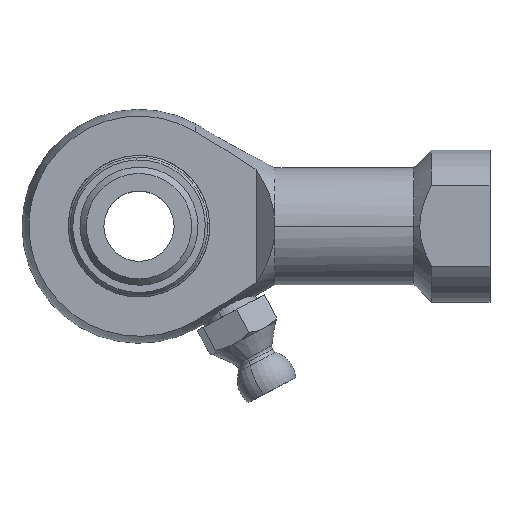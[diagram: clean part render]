
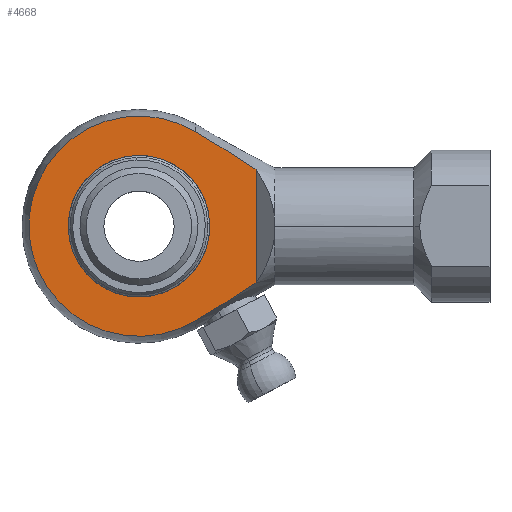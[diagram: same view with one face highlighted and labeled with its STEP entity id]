
A CAD part, top view. The second image highlights one B-rep face of the part: STEP entity #4668.
In plain terms, the highlighted planar face has unit normal (0, 0, 1).
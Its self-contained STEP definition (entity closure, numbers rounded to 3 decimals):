
#2340 = CARTESIAN_POINT ( 'NONE',  ( 10., 4.835, 3.375 ) ) ;
#2341 = CARTESIAN_POINT ( 'NONE',  ( 9.157, 5.403, 3.375 ) ) ;
#2342 = CARTESIAN_POINT ( 'NONE',  ( 8.302, 5.95, 3.375 ) ) ;
#2343 = CARTESIAN_POINT ( 'NONE',  ( 6.579, 7.024, 3.375 ) ) ;
#2344 = CARTESIAN_POINT ( 'NONE',  ( 5.711, 7.551, 3.375 ) ) ;
#2345 = CARTESIAN_POINT ( 'NONE',  ( 4.841, 8.073, 3.375 ) ) ;
#2350 = B_SPLINE_CURVE_WITH_KNOTS ( 'NONE', 3,
 ( #2345, #2344, #2343, #2342, #2341, #2340 ),
 .UNSPECIFIED., .F., .F.,
 ( 4, 2, 4 ),
 ( 0.013, 0.016, 0.019 ),
 .UNSPECIFIED. ) ;
#2356 = CARTESIAN_POINT ( 'NONE',  ( 10., 4.835, 3.375 ) ) ;
#2379 = CARTESIAN_POINT ( 'NONE',  ( 4.841, 8.073, 3.375 ) ) ;
#2444 = CARTESIAN_POINT ( 'NONE',  ( 10., -4.835, 3.375 ) ) ;
#2479 = CARTESIAN_POINT ( 'NONE',  ( 4.841, -8.073, 3.375 ) ) ;
#2480 = CARTESIAN_POINT ( 'NONE',  ( 5.711, -7.551, 3.375 ) ) ;
#2481 = CARTESIAN_POINT ( 'NONE',  ( 6.579, -7.024, 3.375 ) ) ;
#2482 = CARTESIAN_POINT ( 'NONE',  ( 8.302, -5.95, 3.375 ) ) ;
#2483 = CARTESIAN_POINT ( 'NONE',  ( 9.158, -5.403, 3.375 ) ) ;
#2484 = CARTESIAN_POINT ( 'NONE',  ( 10., -4.835, 3.375 ) ) ;
#2486 = CARTESIAN_POINT ( 'NONE',  ( 4.841, -8.073, 3.375 ) ) ;
#2488 = B_SPLINE_CURVE_WITH_KNOTS ( 'NONE', 3,
 ( #2484, #2483, #2482, #2481, #2480, #2479 ),
 .UNSPECIFIED., .F., .F.,
 ( 4, 2, 4 ),
 ( 0.032, 0.035, 0.039 ),
 .UNSPECIFIED. ) ;
#2501 = DIRECTION ( 'NONE',  ( -1., 0., 0. ) ) ;
#2502 = DIRECTION ( 'NONE',  ( 0., 0., -1. ) ) ;
#2503 = CARTESIAN_POINT ( 'NONE',  ( 0., 0., 3.375 ) ) ;
#2504 = AXIS2_PLACEMENT_3D ( 'NONE', #2503, #2502, #2501 ) ;
#2505 = DIRECTION ( 'NONE',  ( -1., 0., 0. ) ) ;
#2506 = DIRECTION ( 'NONE',  ( 0., 0., -1. ) ) ;
#2507 = CIRCLE ( 'NONE', #2504, 6.049 ) ;
#2508 = CARTESIAN_POINT ( 'NONE',  ( -10., -10., 3.375 ) ) ;
#2509 = AXIS2_PLACEMENT_3D ( 'NONE', #2508, #2506, #2505 ) ;
#2510 = PLANE ( 'NONE',  #2509 ) ;
#2511 = FACE_OUTER_BOUND ( 'NONE', #4728, .T. ) ;
#2512 = FACE_BOUND ( 'NONE', #4669, .T. ) ;
#2513 = DIRECTION ( 'NONE',  ( 0., 1., 0. ) ) ;
#2514 = VECTOR ( 'NONE', #2513, 1000. ) ;
#2515 = CARTESIAN_POINT ( 'NONE',  ( 10., -10., 3.375 ) ) ;
#2516 = LINE ( 'NONE', #2515, #2514 ) ;
#2591 = CARTESIAN_POINT ( 'NONE',  ( 6.049, 0., 3.375 ) ) ;
#2592 = CARTESIAN_POINT ( 'NONE',  ( -6.049, 0., 3.375 ) ) ;
#2593 = DIRECTION ( 'NONE',  ( -1., 0., 0. ) ) ;
#2594 = DIRECTION ( 'NONE',  ( 0., 0., -1. ) ) ;
#2595 = CARTESIAN_POINT ( 'NONE',  ( 0., 0., 3.375 ) ) ;
#2596 = AXIS2_PLACEMENT_3D ( 'NONE', #2595, #2594, #2593 ) ;
#2597 = CIRCLE ( 'NONE', #2596, 6.049 ) ;
#2678 = DIRECTION ( 'NONE',  ( -1., 0., 0. ) ) ;
#2679 = DIRECTION ( 'NONE',  ( 0., 0., -1. ) ) ;
#2680 = CARTESIAN_POINT ( 'NONE',  ( 0., 0., 3.375 ) ) ;
#2681 = AXIS2_PLACEMENT_3D ( 'NONE', #2680, #2679, #2678 ) ;
#2682 = CIRCLE ( 'NONE', #2681, 9.413 ) ;
#4595 = VERTEX_POINT ( 'NONE', #2356 ) ;
#4597 = EDGE_CURVE ( 'NONE', #4603, #4595, #2350, .T. ) ;
#4603 = VERTEX_POINT ( 'NONE', #2379 ) ;
#4648 = VERTEX_POINT ( 'NONE', #2444 ) ;
#4650 = EDGE_CURVE ( 'NONE', #4648, #4651, #2488, .T. ) ;
#4651 = VERTEX_POINT ( 'NONE', #2486 ) ;
#4664 = EDGE_CURVE ( 'NONE', #4648, #4595, #2516, .T. ) ;
#4668 = ADVANCED_FACE ( 'NONE', ( #2512, #2511 ), #2510, .F. ) ;
#4669 = EDGE_LOOP ( 'NONE', ( #4726, #4727 ) ) ;
#4670 = EDGE_CURVE ( 'NONE', #4685, #4684, #2507, .T. ) ;
#4683 = EDGE_CURVE ( 'NONE', #4684, #4685, #2597, .T. ) ;
#4684 = VERTEX_POINT ( 'NONE', #2592 ) ;
#4685 = VERTEX_POINT ( 'NONE', #2591 ) ;
#4726 = ORIENTED_EDGE ( 'NONE', *, *, #4683, .T. ) ;
#4727 = ORIENTED_EDGE ( 'NONE', *, *, #4670, .T. ) ;
#4728 = EDGE_LOOP ( 'NONE', ( #4729, #4730, #4731, #4732 ) ) ;
#4729 = ORIENTED_EDGE ( 'NONE', *, *, #4737, .F. ) ;
#4730 = ORIENTED_EDGE ( 'NONE', *, *, #4650, .F. ) ;
#4731 = ORIENTED_EDGE ( 'NONE', *, *, #4664, .T. ) ;
#4732 = ORIENTED_EDGE ( 'NONE', *, *, #4597, .F. ) ;
#4737 = EDGE_CURVE ( 'NONE', #4651, #4603, #2682, .T. ) ;
